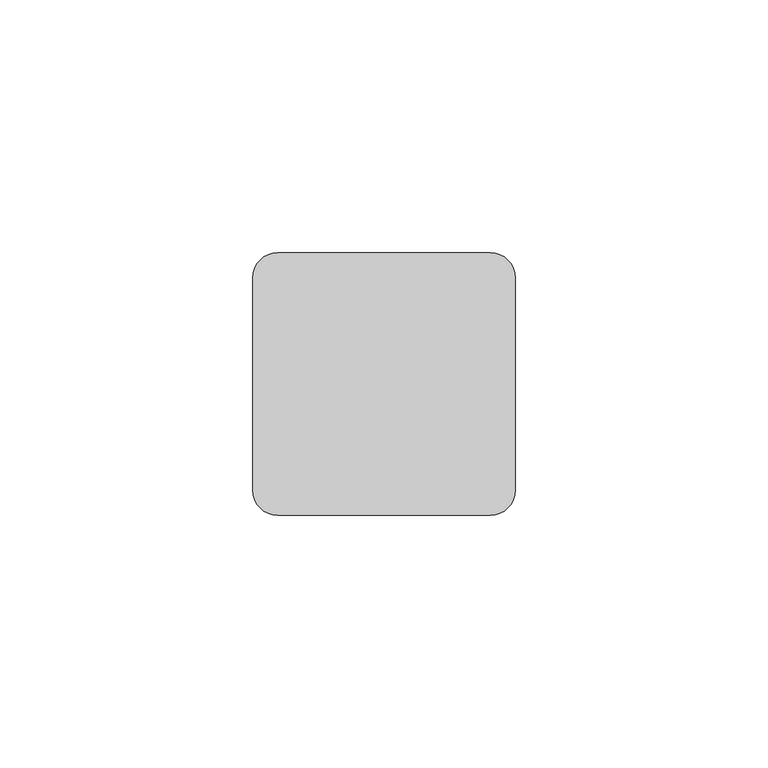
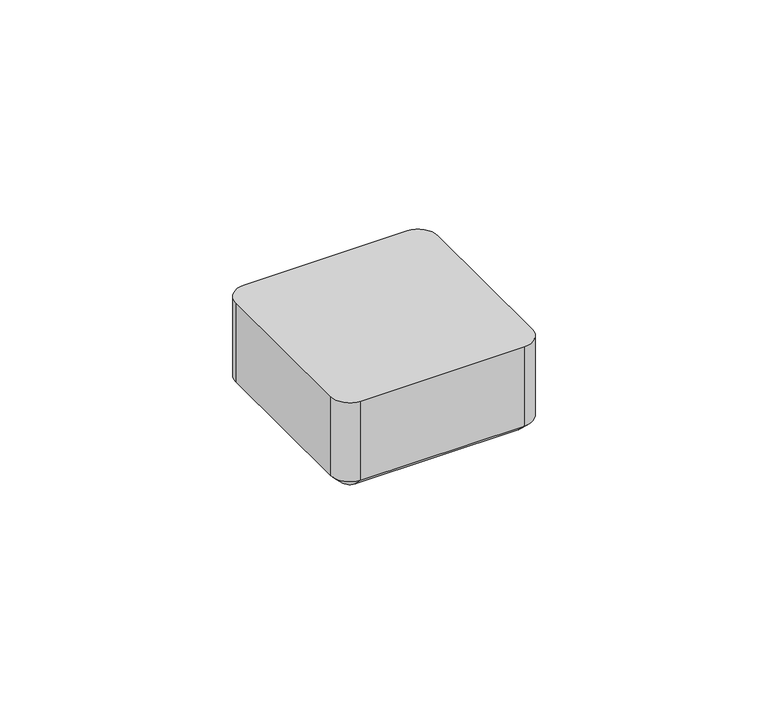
"""IFC4 building model written with IfcOpenShell, lengths in millimetres: alarm geometry, RBZ_ИзоляторШлейфа_Рубеж_ИЗ-1_прот.R3(плоскость) : ИЗ-1 прот.R3."""

import ifcopenshell
import ifcopenshell.guid

model = None  # the IFC model being written
_history = None  # IfcOwnerHistory: only IFC2X3 demands one
_inside = {}  # id of a spatial element -> (the spatial element, [elements in it])
_under = {}  # id of a project, library or spatial element -> (it, [spatial elements below it])
_declared = {}  # id of a project -> (the project, [libraries it declares])
_typed = {}  # id of a type object -> (the type object, [elements of that type])
_made_of = {}  # id of a material, layer set ... -> (it, [elements and type objects made of it])


def new_model(schema):
    """Start an empty IFC model of exactly this schema.

    Asked for "IFC4X3", IfcOpenShell would pick the latest addendum, in which some entities
    have other attributes; the version numbers below select the first issue.
    IFC2X3 requires an IfcOwnerHistory on every rooted entity: one is made here for all.
    """
    global model, _history
    if schema == "IFC4X3":
        model = ifcopenshell.file(schema_version=(4, 3, 0, 0))
    else:
        model = ifcopenshell.file(schema=schema)
    _inside.clear()
    _under.clear()
    _declared.clear()
    _typed.clear()
    _made_of.clear()
    _history = None
    if model.schema == "IFC2X3":
        org = make("IfcOrganization", Name="unknown")
        user = make(
            "IfcPersonAndOrganization",
            ThePerson=make("IfcPerson", FamilyName="unknown"),
            TheOrganization=org,
        )
        app = make(
            "IfcApplication",
            ApplicationDeveloper=org,
            Version="unknown",
            ApplicationFullName="unknown",
            ApplicationIdentifier="unknown",
        )
        _history = make(
            "IfcOwnerHistory",
            OwningUser=user,
            OwningApplication=app,
            ChangeAction="ADDED",
            CreationDate=0,
        )
    return model


def make(cls, **values):
    """One entity of the class cls with the attributes given. An attribute that is None is left unset."""
    return model.create_entity(
        cls, **{name: value for name, value in values.items() if value is not None}
    )


def rooted(cls, **values):
    """An entity with a GlobalId (a new one), such as an element, a storey or a relation."""
    return make(cls, GlobalId=ifcopenshell.guid.new(), OwnerHistory=_history, **values)


def si_unit(unit_type, name, prefix=None):
    """IfcSIUnit, for example si_unit("LENGTHUNIT", "METRE", prefix="MILLI")."""
    return make("IfcSIUnit", UnitType=unit_type, Prefix=prefix, Name=name)


def assignment(units):
    """IfcUnitAssignment: the units of a project."""
    return None if units is None else make("IfcUnitAssignment", Units=units)


def point(xyz):
    """IfcCartesianPoint."""
    return None if xyz is None else make("IfcCartesianPoint", Coordinates=xyz)


def direction(xyz):
    """IfcDirection."""
    return None if xyz is None else make("IfcDirection", DirectionRatios=xyz)


def frame(location, z_axis=None, x_axis=None):
    """IfcAxis2Placement3D, a coordinate frame: its origin and axes. An axis left out is left unset."""
    return make(
        "IfcAxis2Placement3D",
        Location=point(location),
        Axis=direction(z_axis),
        RefDirection=direction(x_axis),
    )


def frame_2d(location, x_axis=None):
    """IfcAxis2Placement2D, a coordinate frame in the plane: its origin and x axis."""
    return make(
        "IfcAxis2Placement2D", Location=point(location), RefDirection=direction(x_axis)
    )


def origin():
    """The frame at (0, 0, 0) with its axes left unset."""
    return frame((0.0, 0.0, 0.0))


def place(relative_to, where):
    """IfcLocalPlacement: puts the frame where relative to a parent placement (None: the world)."""
    return make(
        "IfcLocalPlacement", PlacementRelTo=relative_to, RelativePlacement=where
    )


def context(
    kind, dimensions, precision=None, world=None, true_north=None, identifier=None
):
    """IfcGeometricRepresentationContext, for example the 3D "Model" context."""
    return make(
        "IfcGeometricRepresentationContext",
        ContextIdentifier=identifier,
        ContextType=kind,
        CoordinateSpaceDimension=dimensions,
        Precision=precision,
        WorldCoordinateSystem=world,
        TrueNorth=true_north,
    )


def project(units=None, contexts=None):
    """IfcProject with its units and contexts."""
    return rooted(
        "IfcProject",
        Name="project",
        RepresentationContexts=contexts,
        UnitsInContext=assignment(units),
    )


def spatial(cls, under=None, at=None, **own):
    """A site, building, storey or space (cls), placed at a placement, below another one or the project."""
    s = rooted(cls, ObjectPlacement=at, **own)
    if under is not None:
        _under.setdefault(under.id(), (under, []))[1].append(s)
    return s


def polyline(points):
    """IfcPolyline through the points."""
    return make("IfcPolyline", Points=[point(p) for p in points])


def circle_curve(where, radius):
    """IfcCircle in the frame where."""
    return make("IfcCircle", Position=where, Radius=radius)


def trimmed(basis, trim1, trim2, sense, master):
    """IfcTrimmedCurve: the piece of a basis curve between two trims."""
    return make(
        "IfcTrimmedCurve",
        BasisCurve=basis,
        Trim1=trim1,
        Trim2=trim2,
        SenseAgreement=sense,
        MasterRepresentation=master,
    )


def segment(curve, same_sense, transition):
    """IfcCompositeCurveSegment."""
    return make(
        "IfcCompositeCurveSegment",
        Transition=transition,
        SameSense=same_sense,
        ParentCurve=curve,
    )


def composite_curve(segments, self_intersect=None):
    """IfcCompositeCurve: segments joined end to end."""
    return make("IfcCompositeCurve", Segments=segments, SelfIntersect=self_intersect)


def outline(outer, holes=None, kind="AREA"):
    """IfcArbitraryClosedProfileDef: a profile drawn as a closed curve; with holes, ...WithVoids."""
    if holes is None:
        return make("IfcArbitraryClosedProfileDef", ProfileType=kind, OuterCurve=outer)
    return make(
        "IfcArbitraryProfileDefWithVoids",
        ProfileType=kind,
        OuterCurve=outer,
        InnerCurves=holes,
    )


def extrude(swept, where, along, depth):
    """IfcExtrudedAreaSolid: the profile swept, set in the frame where, extruded along a direction by depth."""
    return make(
        "IfcExtrudedAreaSolid",
        SweptArea=swept,
        Position=where,
        ExtrudedDirection=direction(along),
        Depth=depth,
    )


def shape(context_of_items, identifier, shape_type, items):
    """IfcShapeRepresentation: the items that make up one representation, for example the "Body"."""
    return make(
        "IfcShapeRepresentation",
        ContextOfItems=context_of_items,
        RepresentationIdentifier=identifier,
        RepresentationType=shape_type,
        Items=items,
    )


def source(mapping_origin, context_of_items, identifier, shape_type, items):
    """IfcRepresentationMap: a shape defined once, which mapped items show again and again."""
    return make(
        "IfcRepresentationMap",
        MappingOrigin=mapping_origin,
        MappedRepresentation=shape(context_of_items, identifier, shape_type, items),
    )


def transform(
    local_origin,
    x_axis=None,
    y_axis=None,
    z_axis=None,
    scale=None,
    scale2=None,
    scale3=None,
    uniform=True,
):
    """IfcCartesianTransformationOperator3D, or its non-uniform kind. x_axis, y_axis, z_axis: its Axis1, 2, 3."""
    if uniform:
        return make(
            "IfcCartesianTransformationOperator3D",
            Axis1=direction(x_axis),
            Axis2=direction(y_axis),
            LocalOrigin=point(local_origin),
            Scale=scale,
            Axis3=direction(z_axis),
        )
    return make(
        "IfcCartesianTransformationOperator3DnonUniform",
        Axis1=direction(x_axis),
        Axis2=direction(y_axis),
        LocalOrigin=point(local_origin),
        Scale=scale,
        Axis3=direction(z_axis),
        Scale2=scale2,
        Scale3=scale3,
    )


def mapped(mapping_source, mapping_target):
    """IfcMappedItem: shows the shape of a source again, moved by a transform."""
    return make(
        "IfcMappedItem", MappingSource=mapping_source, MappingTarget=mapping_target
    )


def made_of(thing, what):
    """Note that an element or type object is made of a material, layer set ...; save() writes the relation."""
    if what is not None:
        _made_of.setdefault(what.id(), (what, []))[1].append(thing)
    return thing


def element(
    cls,
    number,
    at=None,
    inside=None,
    cuts=None,
    type_object=None,
    material=None,
    context=None,
    identifier="Body",
    shape_type=None,
    held_by="IfcProductDefinitionShape",
    body=None,
    shapes=None,
    **own,
):
    """One element of the class cls, such as IfcWall. Its Tag is "e" and its number.

    at: its placement. inside: the storey or other place that contains it. cuts: it is an
    opening in that element (IfcRelVoidsElement). A single representation is given by context,
    identifier, shape_type and body (its items); several are given by shapes. held_by: the class
    of the entity that holds the representations. save() writes the other relations.
    """
    e = rooted(cls, Tag="e%d" % number, ObjectPlacement=at, **own)
    if body is not None:
        shapes = [shape(context, identifier, shape_type, body)]
    if shapes is not None:
        e.Representation = make(held_by, Representations=shapes)
    if inside is not None:
        _inside.setdefault(inside.id(), (inside, []))[1].append(e)
    if cuts is not None:
        rooted(
            "IfcRelVoidsElement", RelatingBuildingElement=cuts, RelatedOpeningElement=e
        )
    if type_object is not None:
        _typed.setdefault(type_object.id(), (type_object, []))[1].append(e)
    return made_of(e, material)


def aggregate(whole, parts):
    """IfcRelAggregates: a whole, such as a stair, and the parts it consists of."""
    return rooted("IfcRelAggregates", RelatingObject=whole, RelatedObjects=parts)


def save(model, path):
    """Write the relations noted so far, then the file.

    IfcRelAggregates (storeys below a building ...), IfcRelContainedInSpatialStructure (elements
    in a storey), IfcRelDefinesByType, IfcRelAssociatesMaterial and IfcRelDeclares: one each for
    every whole, place, type object, material and project.
    """
    for whole, parts in _under.values():
        aggregate(whole, parts)
    for where, things in _inside.values():
        rooted(
            "IfcRelContainedInSpatialStructure",
            RelatedElements=things,
            RelatingStructure=where,
        )
    for kind, things in _typed.values():
        rooted("IfcRelDefinesByType", RelatedObjects=things, RelatingType=kind)
    for what, things in _made_of.values():
        rooted("IfcRelAssociatesMaterial", RelatedObjects=things, RelatingMaterial=what)
    for by, libraries in _declared.values():
        rooted("IfcRelDeclares", RelatingContext=by, RelatedDefinitions=libraries)
    model.write(path)


def plane_surface(at):
    """IfcPlane: the flat surface through the origin of the frame at, square to its z axis."""
    return make("IfcPlane", Position=at)


def cylinder_surface(at, radius):
    """IfcCylindricalSurface: all points at the distance radius from the z axis of the frame at."""
    return make("IfcCylindricalSurface", Position=at, Radius=radius)


def revolved_surface(curve, axis_point, axis_direction):
    """IfcSurfaceOfRevolution: the curve turned about the line through axis_point along axis_direction."""
    return make(
        "IfcSurfaceOfRevolution",
        SweptCurve=make("IfcArbitraryOpenProfileDef", ProfileType="CURVE", Curve=curve),
        AxisPosition=make("IfcAxis1Placement", Location=point(axis_point), Axis=direction(axis_direction)),
    )


def advanced_brep(points, edges, surfaces, faces):
    """IfcAdvancedBrep: a solid bounded by faces that lie on surfaces and meet in shared edges.

    An edge is (start, end): straight between two places in points (the first is 0);
    or (start, end, curve); or (start, end, curve, False) where it runs against its curve.
    A face is (place in surfaces, loops), or (place, loops, False) where it looks against
    its surface's normal. A loop lists edges by number (the first is 1), with a minus sign
    where the edge is run from its end to its start. The first loop is the outer one.
    """
    corners = [point(p) for p in points]
    vertices = [make("IfcVertexPoint", VertexGeometry=c) for c in corners]
    made = []
    for start, end, *more in edges:
        made.append(
            make(
                "IfcEdgeCurve",
                EdgeStart=vertices[start],
                EdgeEnd=vertices[end],
                EdgeGeometry=more[0] if more else make("IfcPolyline", Points=[corners[start], corners[end]]),
                SameSense=more[1] if len(more) > 1 else True,
            )
        )
    hull = []
    for where, loops, *sense in faces:
        bounds = []
        for j, loop in enumerate(loops):
            ring = [make("IfcOrientedEdge", EdgeElement=made[abs(k) - 1], Orientation=k > 0) for k in loop]
            bounds.append(
                make(
                    "IfcFaceOuterBound" if j == 0 else "IfcFaceBound",
                    Bound=make("IfcEdgeLoop", EdgeList=ring),
                    Orientation=True,
                )
            )
        hull.append(make("IfcAdvancedFace", Bounds=bounds, FaceSurface=surfaces[where], SameSense=sense[0] if sense else True))
    return make("IfcAdvancedBrep", Outer=make("IfcClosedShell", CfsFaces=hull))


def alarm_a2247946(model_context):
    return source(origin(), model_context, "Body", "SolidModel", [
        extrude(outline(polyline([(-7.8705725, -6.8140343), (-9.1337508, -0.6924779), (-7.9662218, -0.6924779), (-4.7475463, -4.5305966), (-5.538551, -0.6924779), (-4.3512849, -0.6924779), (-3.0896248, -6.8140343), (-4.270818, -6.8140343), (-7.4682381, -3.0184264), (-6.6848246, -6.8140343), (-7.8705725, -6.8140343)])), frame((0.0, 0.0, -25.0), z_axis=(0.0, 0.0, 1.0), x_axis=(1.0, 0.0, 0.0)), (0.0, 0.0, 1.0), 1.0),
        extrude(outline(polyline([(-1.0688432, -5.1621857), (0.6566402, -4.6277642), (-0.6315892, -4.321079), (-0.5678229, -3.3160021), (0.1905395, -1.8987221), (-0.7636763, -1.6641535), (-1.9433512, -2.441494), (-3.109362, -2.1029258), (-0.780377, -0.5953103), (1.0703614, -1.1517465), (1.7490161, -2.4581947), (1.5554401, -3.2302213), (0.9716756, -3.7699568), (1.854534, -4.3757358), (2.1376864, -5.2942729), (1.5023016, -6.4678749), (0.0136642, -6.9112019), (-1.3375722, -6.5665607), (-2.2348539, -5.4202871), (-1.0688432, -5.1621857)])), frame((0.0, 0.0, -25.0), z_axis=(0.0, 0.0, 1.0), x_axis=(1.0, 0.0, 0.0)), (0.0, 0.0, 1.0), 1.0),
        extrude(outline(polyline([(2.5263566, -3.5103372), (2.3320215, -2.3443264), (4.664043, -2.3443264), (4.8583781, -3.5103372), (2.5263566, -3.5103372)])), frame((0.0, 0.0, -25.0), z_axis=(0.0, 0.0, 1.0), x_axis=(1.0, 0.0, 0.0)), (0.0, 0.0, 1.0), 1.0),
        extrude(outline(polyline([(5.8300537, -4.1905101), (6.70608, -4.4744216), (7.5699604, -4.9162304), (6.7045618, -0.6924779), (7.8918279, -0.6924779), (9.1458968, -6.8140343), (8.3564103, -6.8140343), (6.0243888, -5.2593533), (5.8300537, -4.1905101)])), frame((0.0, 0.0, -25.0), z_axis=(0.0, 0.0, 1.0), x_axis=(1.0, 0.0, 0.0)), (0.0, 0.0, 1.0), 1.0),
        extrude(outline(polyline([(11.7855416, -18.6990713), (9.9114727, -14.0605882), (12.2139746, -14.0605882), (13.2700251, -16.6744049), (18.283443, -16.6744049), (17.940131, -15.824678), (13.903905, -15.824678), (15.5104459, -13.3508219), (9.0721322, -13.3508219), (11.5414355, -19.4625621), (10.0066885, -21.57496), (5.8735142, -11.3449945), (17.1662203, -11.3449945), (18.5772326, -9.1722262), (21.1634653, -9.1722262), (17.6118624, -14.0605882), (19.4259312, -14.0605882), (21.3, -18.6990713), (11.7855416, -18.6990713)])), frame((0.0, 0.0, -25.0), z_axis=(0.0, 0.0, 1.0), x_axis=(1.0, 0.0, 0.0)), (0.0, 0.0, 1.0), 1.0),
        extrude(outline(composite_curve([segment(trimmed(circle_curve(frame_2d((0.0799033, 4.7717765)), 3.0), [point((0.0799033, 1.7717765))], [point((0.0799033, 7.7717765))], False, "CARTESIAN"), True, "CONTINUOUS"), segment(trimmed(circle_curve(frame_2d((0.0799033, 4.7717765)), 3.0), [point((0.0799033, 7.7717765))], [point((0.0799033, 1.7717765))], False, "CARTESIAN"), True, "CONTINUOUS")], self_intersect=False)), frame((0.0, 0.0, -25.0), z_axis=(0.0, 0.0, 1.0), x_axis=(1.0, 0.0, 0.0)), (0.0, 0.0, 1.0), 1.0),
        advanced_brep(
        [(-21.0, 26.0, -21.5), (-21.0, 23.5, -24.0), (-23.5, 21.0, -24.0), (-26.0, 21.0, -21.5), (21.0, 26.0, -21.5), (21.0, 23.5, -24.0), (26.0, 21.0, -21.5), (23.5, 21.0, -24.0), (26.0, -21.0, -21.5), (23.5, -21.0, -24.0), (21.0, -26.0, -21.5), (21.0, -23.5, -24.0), (-21.0, -26.0, -21.5), (-21.0, -23.5, -24.0), (-26.0, -21.0, -21.5), (-23.5, -21.0, -24.0), (-21.0, -26.0, 0.0), (21.0, -26.0, 0.0), (26.0, -21.0, 0.0), (26.0, 21.0, 0.0), (21.0, 26.0, 0.0), (-21.0, 26.0, 0.0), (-26.0, 21.0, 0.0), (-26.0, -21.0, 0.0)],
        [
            (0, 1),
            (1, 2, circle_curve(frame((-21.0, 21.0, -24.0), z_axis=(0.0, 0.0, 1.0), x_axis=(-1.0, 0.0, 0.0)), 2.5)),
            (2, 3),
            (3, 0, circle_curve(frame((-21.0, 21.0, -21.5), z_axis=(0.0, 0.0, -1.0), x_axis=(-1.0, 0.0, 0.0)), 5.0)),
            (0, 4),
            (4, 5),
            (5, 1),
            (4, 6, circle_curve(frame((21.0, 21.0, -21.5), z_axis=(0.0, 0.0, -1.0), x_axis=(0.0, 1.0, 0.0)), 5.0)),
            (6, 7),
            (7, 5, circle_curve(frame((21.0, 21.0, -24.0), z_axis=(0.0, 0.0, 1.0), x_axis=(0.0, 1.0, 0.0)), 2.5)),
            (6, 8),
            (8, 9),
            (9, 7),
            (8, 10, circle_curve(frame((21.0, -21.0, -21.5), z_axis=(0.0, 0.0, -1.0), x_axis=(1.0, 0.0, 0.0)), 5.0)),
            (10, 11),
            (11, 9, circle_curve(frame((21.0, -21.0, -24.0), z_axis=(0.0, 0.0, 1.0), x_axis=(1.0, 0.0, 0.0)), 2.5)),
            (10, 12),
            (12, 13),
            (13, 11),
            (12, 14, circle_curve(frame((-21.0, -21.0, -21.5), z_axis=(0.0, 0.0, -1.0), x_axis=(0.0, -1.0, 0.0)), 5.0)),
            (14, 15),
            (15, 13, circle_curve(frame((-21.0, -21.0, -24.0), z_axis=(0.0, 0.0, 1.0), x_axis=(0.0, -1.0, 0.0)), 2.5)),
            (2, 15),
            (14, 3),
            (16, 17),
            (17, 18, circle_curve(frame((21.0, -21.0, 0.0), z_axis=(0.0, 0.0, 1.0), x_axis=(0.0, 1.0, 0.0)), 5.0)),
            (18, 19),
            (19, 20, circle_curve(frame((21.0, 21.0, 0.0), z_axis=(0.0, 0.0, 1.0), x_axis=(0.0, 1.0, 0.0)), 5.0)),
            (20, 21),
            (21, 22, circle_curve(frame((-21.0, 21.0, 0.0), z_axis=(0.0, 0.0, 1.0), x_axis=(0.0, 1.0, 0.0)), 5.0)),
            (22, 23),
            (23, 16, circle_curve(frame((-21.0, -21.0, 0.0), z_axis=(0.0, 0.0, 1.0), x_axis=(0.0, 1.0, 0.0)), 5.0)),
            (16, 12),
            (10, 17),
            (8, 18),
            (6, 19),
            (4, 20),
            (0, 21),
            (3, 22),
            (14, 23),
        ],
        [
            revolved_surface(polyline([(-26.0, 21.0, -21.5), (-23.5, 21.0, -24.0)]), (-21.0, 21.0, -24.0), (0.0, 0.0, -1.0)),
            plane_surface(frame((-21.0, 23.5, -24.0), z_axis=(0.0, 0.707106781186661, -0.7071067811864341), x_axis=(1.0, 0.0, 0.0))),
            revolved_surface(polyline([(21.0, 26.0, -21.5), (21.0, 23.5, -24.0)]), (21.0, 21.0, -24.0), (0.0, 0.0, -1.0)),
            plane_surface(frame((23.5, 21.0, -24.0), z_axis=(0.707106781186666, 0.0, -0.7071067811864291), x_axis=(0.0, -1.0, 0.0))),
            revolved_surface(polyline([(26.0, -21.0, -21.5), (23.5, -21.0, -24.0)]), (21.0, -21.0, -24.0), (0.0, 0.0, -1.0)),
            plane_surface(frame((21.0, -23.5, -24.0), z_axis=(0.0, -0.7071067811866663, -0.7071067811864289), x_axis=(-1.0, 0.0, 0.0))),
            revolved_surface(polyline([(-21.0, -26.0, -21.5), (-21.0, -23.5, -24.0)]), (-21.0, -21.0, -24.0), (0.0, 0.0, -1.0)),
            plane_surface(frame((-23.5, -21.0, -24.0), z_axis=(-0.7071067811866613, 0.0, -0.7071067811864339), x_axis=(0.0, 1.0, 0.0))),
            plane_surface(frame((-21.0, -16.0, -24.0), z_axis=(0.0, 0.0, -1.0), x_axis=(1.0, 0.0, 0.0))),
            plane_surface(frame((-21.0, -16.0, 0.0), z_axis=(0.0, 0.0, 1.0), x_axis=(-1.0, 0.0, 0.0))),
            plane_surface(frame((21.0, -26.0, -24.0), z_axis=(0.0, -1.0, 0.0), x_axis=(0.0, 0.0, 1.0))),
            cylinder_surface(frame((21.0, -21.0, 0.0), z_axis=(0.0, 0.0, -1.0), x_axis=(0.0, 1.0, 0.0)), 5.0),
            plane_surface(frame((26.0, 21.0, -24.0), z_axis=(1.0, 0.0, 0.0), x_axis=(0.0, 0.0, 1.0))),
            cylinder_surface(frame((21.0, 21.0, 0.0), z_axis=(0.0, 0.0, -1.0), x_axis=(0.0, 1.0, 0.0)), 5.0),
            plane_surface(frame((-21.0, 26.0, -24.0), z_axis=(0.0, 1.0, 0.0), x_axis=(0.0, 0.0, 1.0))),
            cylinder_surface(frame((-21.0, 21.0, 0.0), z_axis=(0.0, 0.0, -1.0), x_axis=(0.0, 1.0, 0.0)), 5.0),
            plane_surface(frame((-26.0, -21.0, -24.0), z_axis=(-1.0, 0.0, 0.0), x_axis=(0.0, 0.0, 1.0))),
            cylinder_surface(frame((-21.0, -21.0, 0.0), z_axis=(0.0, 0.0, -1.0), x_axis=(0.0, 1.0, 0.0)), 5.0),
        ],
        [
            (0, [[1, 2, 3, 4]]),
            (1, [[-1, 5, 6, 7]]),
            (2, [[-6, 8, 9, 10]]),
            (3, [[-9, 11, 12, 13]]),
            (4, [[-12, 14, 15, 16]]),
            (5, [[-15, 17, 18, 19]]),
            (6, [[-18, 20, 21, 22]]),
            (7, [[-3, 23, -21, 24]]),
            (8, [[-2, -7, -10, -13, -16, -19, -22, -23]]),
            (9, [[25, 26, 27, 28, 29, 30, 31, 32]]),
            (10, [[-25, 33, -17, 34]]),
            (11, [[-26, -34, -14, 35]]),
            (12, [[-27, -35, -11, 36]]),
            (13, [[-28, -36, -8, 37]]),
            (14, [[-29, -37, -5, 38]]),
            (15, [[-30, -38, -4, 39]]),
            (16, [[-31, -39, -24, 40]]),
            (17, [[-32, -40, -20, -33]]),
        ],
    ),
    ])


if __name__ == "__main__":
    model = new_model("IFC4")
    model_context = context("Model", 3, world=origin())
    ifc_project = project(units=[si_unit("LENGTHUNIT", "METRE", prefix="MILLI")], contexts=[model_context])
    site = spatial("IfcSite", under=ifc_project)
    building = spatial("IfcBuilding", under=site)
    placement = place(None, origin())
    alarm_shape = alarm_a2247946(model_context)
    element("IfcAlarm", 1, ObjectType="RBZ_ИзоляторШлейфа_Рубеж_ИЗ-1_прот.R3(плоскость) : ИЗ-1 прот.R3", at=placement, inside=building, context=model_context, shape_type="MappedRepresentation", body=[
        mapped(alarm_shape, transform((0.0, 0.0, 0.0), x_axis=(1.0, 0.0, 0.0), y_axis=(0.0, 1.0, 0.0), z_axis=(0.0, 0.0, 1.0))),
    ])
    save(model, "model.ifc")
